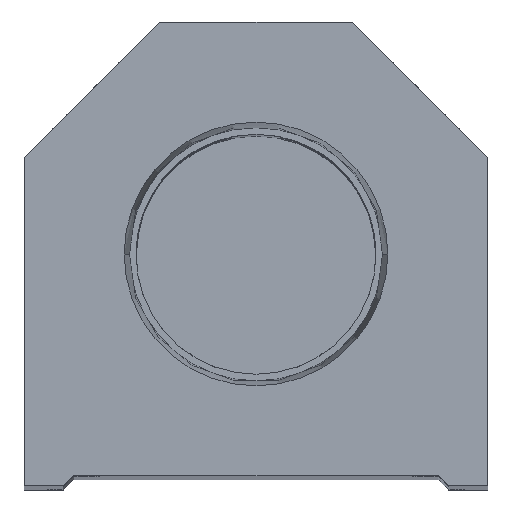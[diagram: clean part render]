
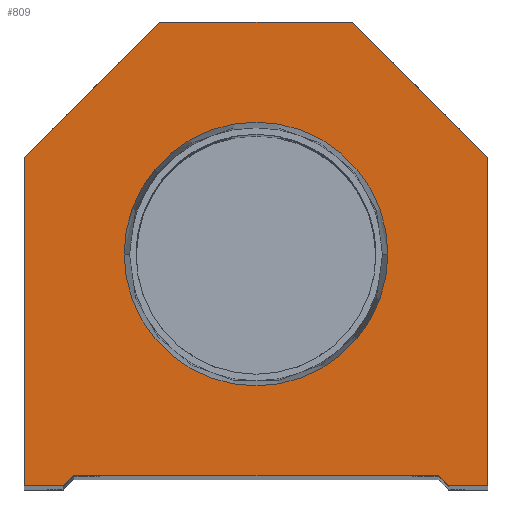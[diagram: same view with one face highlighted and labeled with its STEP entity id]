
A CAD part, top view. The second image highlights one B-rep face of the part: STEP entity #809.
In plain terms, the highlighted planar face has unit normal (0, 0, 1).
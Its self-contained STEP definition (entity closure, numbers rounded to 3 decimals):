
#106 = DIRECTION ( 'NONE',  ( -0.707, 0.707, 0. ) ) ;
#278 = DIRECTION ( 'NONE',  ( 1., 0., 0. ) ) ;
#294 = DIRECTION ( 'NONE',  ( 0., 0., 1. ) ) ;
#446 = CARTESIAN_POINT ( 'NONE',  ( 22.25, 31.5, 0. ) ) ;
#483 = CARTESIAN_POINT ( 'NONE',  ( -9.25, 44.5, 0. ) ) ;
#522 = DIRECTION ( 'NONE',  ( 1., 0., 0. ) ) ;
#809 = ADVANCED_FACE ( 'NONE', ( #11690, #15241 ), #22225, .T. ) ;
#1008 = VECTOR ( 'NONE', #3517, 1000. ) ;
#1066 = CARTESIAN_POINT ( 'NONE',  ( 9.25, 44.5, 0. ) ) ;
#1133 = CARTESIAN_POINT ( 'NONE',  ( 22.25, 0., 0. ) ) ;
#1269 = DIRECTION ( 'NONE',  ( 0.707, -0.707, 0. ) ) ;
#1543 = EDGE_CURVE ( 'NONE', #21576, #10332, #15882, .T. ) ;
#1892 = CARTESIAN_POINT ( 'NONE',  ( 0., 22.25, 0. ) ) ;
#2183 = AXIS2_PLACEMENT_3D ( 'NONE', #1892, #12311, #278 ) ;
#2688 = ORIENTED_EDGE ( 'NONE', *, *, #18606, .T. ) ;
#2989 = LINE ( 'NONE', #20747, #14627 ) ;
#3051 = CARTESIAN_POINT ( 'NONE',  ( 9.25, 44.5, 0. ) ) ;
#3106 = DIRECTION ( 'NONE',  ( 1., 0., 0. ) ) ;
#3517 = DIRECTION ( 'NONE',  ( 1., 0., 0. ) ) ;
#3863 = CARTESIAN_POINT ( 'NONE',  ( -17.5, 0., 0. ) ) ;
#3910 = DIRECTION ( 'NONE',  ( 0., 1., 0. ) ) ;
#4117 = VERTEX_POINT ( 'NONE', #22165 ) ;
#4138 = EDGE_CURVE ( 'NONE', #17224, #11182, #6272, .T. ) ;
#4257 = LINE ( 'NONE', #11685, #17042 ) ;
#4439 = DIRECTION ( 'NONE',  ( 0.707, 0.707, 0. ) ) ;
#4570 = VECTOR ( 'NONE', #19037, 1000. ) ;
#4657 = CARTESIAN_POINT ( 'NONE',  ( -9.25, 9.25, 0. ) ) ;
#4676 = VECTOR ( 'NONE', #4796, 1000. ) ;
#4796 = DIRECTION ( 'NONE',  ( 0., -1., 0. ) ) ;
#4834 = CARTESIAN_POINT ( 'NONE',  ( 0., 0., 0. ) ) ;
#5049 = CARTESIAN_POINT ( 'NONE',  ( -22.25, 31.5, 0. ) ) ;
#5116 = ORIENTED_EDGE ( 'NONE', *, *, #4138, .T. ) ;
#5143 = CARTESIAN_POINT ( 'NONE',  ( -12.647, 22.25, 0. ) ) ;
#5166 = AXIS2_PLACEMENT_3D ( 'NONE', #15993, #294, #522 ) ;
#5387 = CARTESIAN_POINT ( 'NONE',  ( 22.25, 0., 0. ) ) ;
#5607 = LINE ( 'NONE', #446, #20832 ) ;
#5862 = EDGE_LOOP ( 'NONE', ( #17128, #13416, #13168, #15789, #12606, #8603, #12345, #5116, #13870, #2688 ) ) ;
#6272 = LINE ( 'NONE', #3051, #22276 ) ;
#6523 = LINE ( 'NONE', #10044, #14347 ) ;
#6539 = VECTOR ( 'NONE', #4439, 1000. ) ;
#6622 = LINE ( 'NONE', #4657, #6539 ) ;
#6899 = LINE ( 'NONE', #5049, #4570 ) ;
#7596 = AXIS2_PLACEMENT_3D ( 'NONE', #4834, #11812, #3106 ) ;
#7928 = CARTESIAN_POINT ( 'NONE',  ( -17.5, 1., 0. ) ) ;
#8546 = EDGE_CURVE ( 'NONE', #10332, #9622, #6622, .T. ) ;
#8603 = ORIENTED_EDGE ( 'NONE', *, *, #16302, .T. ) ;
#9622 = VERTEX_POINT ( 'NONE', #7928 ) ;
#10044 = CARTESIAN_POINT ( 'NONE',  ( 17.5, 0., 0. ) ) ;
#10332 = VERTEX_POINT ( 'NONE', #12167 ) ;
#10655 = CIRCLE ( 'NONE', #5166, 12.647 ) ;
#11182 = VERTEX_POINT ( 'NONE', #483 ) ;
#11659 = CARTESIAN_POINT ( 'NONE',  ( -22.25, 0., 0. ) ) ;
#11685 = CARTESIAN_POINT ( 'NONE',  ( -17.5, 1., 0. ) ) ;
#11690 = FACE_BOUND ( 'NONE', #19361, .T. ) ;
#11812 = DIRECTION ( 'NONE',  ( 0., 0., 1. ) ) ;
#12167 = CARTESIAN_POINT ( 'NONE',  ( -18.5, 0., 0. ) ) ;
#12173 = VERTEX_POINT ( 'NONE', #1133 ) ;
#12192 = EDGE_CURVE ( 'NONE', #13000, #12173, #6523, .T. ) ;
#12311 = DIRECTION ( 'NONE',  ( 0., 0., 1. ) ) ;
#12345 = ORIENTED_EDGE ( 'NONE', *, *, #20028, .T. ) ;
#12606 = ORIENTED_EDGE ( 'NONE', *, *, #12192, .T. ) ;
#13000 = VERTEX_POINT ( 'NONE', #20069 ) ;
#13142 = CIRCLE ( 'NONE', #2183, 12.647 ) ;
#13168 = ORIENTED_EDGE ( 'NONE', *, *, #16091, .T. ) ;
#13416 = ORIENTED_EDGE ( 'NONE', *, *, #8546, .T. ) ;
#13870 = ORIENTED_EDGE ( 'NONE', *, *, #15477, .T. ) ;
#14347 = VECTOR ( 'NONE', #19017, 1000. ) ;
#14627 = VECTOR ( 'NONE', #1269, 1000. ) ;
#14839 = DIRECTION ( 'NONE',  ( -1., 0., 0. ) ) ;
#15241 = FACE_OUTER_BOUND ( 'NONE', #5862, .T. ) ;
#15322 = LINE ( 'NONE', #11659, #4676 ) ;
#15477 = EDGE_CURVE ( 'NONE', #11182, #18752, #6899, .T. ) ;
#15789 = ORIENTED_EDGE ( 'NONE', *, *, #21518, .T. ) ;
#15882 = LINE ( 'NONE', #3863, #1008 ) ;
#15993 = CARTESIAN_POINT ( 'NONE',  ( 0., 22.25, 0. ) ) ;
#16044 = LINE ( 'NONE', #5387, #21070 ) ;
#16083 = VERTEX_POINT ( 'NONE', #16746 ) ;
#16091 = EDGE_CURVE ( 'NONE', #9622, #19553, #4257, .T. ) ;
#16302 = EDGE_CURVE ( 'NONE', #12173, #16083, #16044, .T. ) ;
#16746 = CARTESIAN_POINT ( 'NONE',  ( 22.25, 31.5, 0. ) ) ;
#16873 = CARTESIAN_POINT ( 'NONE',  ( 17.5, 1., 0. ) ) ;
#17042 = VECTOR ( 'NONE', #22004, 1000. ) ;
#17128 = ORIENTED_EDGE ( 'NONE', *, *, #1543, .T. ) ;
#17224 = VERTEX_POINT ( 'NONE', #1066 ) ;
#17980 = CARTESIAN_POINT ( 'NONE',  ( -22.25, 31.5, 0. ) ) ;
#18571 = ORIENTED_EDGE ( 'NONE', *, *, #22142, .F. ) ;
#18606 = EDGE_CURVE ( 'NONE', #18752, #21576, #15322, .T. ) ;
#18681 = VERTEX_POINT ( 'NONE', #5143 ) ;
#18752 = VERTEX_POINT ( 'NONE', #17980 ) ;
#19017 = DIRECTION ( 'NONE',  ( 1., 0., 0. ) ) ;
#19037 = DIRECTION ( 'NONE',  ( -0.707, -0.707, 0. ) ) ;
#19361 = EDGE_LOOP ( 'NONE', ( #18571, #20648 ) ) ;
#19553 = VERTEX_POINT ( 'NONE', #16873 ) ;
#19830 = CARTESIAN_POINT ( 'NONE',  ( -22.25, 0., 0. ) ) ;
#20028 = EDGE_CURVE ( 'NONE', #16083, #17224, #5607, .T. ) ;
#20069 = CARTESIAN_POINT ( 'NONE',  ( 18.5, 0., 0. ) ) ;
#20648 = ORIENTED_EDGE ( 'NONE', *, *, #21171, .F. ) ;
#20747 = CARTESIAN_POINT ( 'NONE',  ( 9.25, 9.25, 0. ) ) ;
#20832 = VECTOR ( 'NONE', #106, 1000. ) ;
#21070 = VECTOR ( 'NONE', #3910, 1000. ) ;
#21171 = EDGE_CURVE ( 'NONE', #18681, #4117, #13142, .T. ) ;
#21518 = EDGE_CURVE ( 'NONE', #19553, #13000, #2989, .T. ) ;
#21576 = VERTEX_POINT ( 'NONE', #19830 ) ;
#22004 = DIRECTION ( 'NONE',  ( 1., 0., 0. ) ) ;
#22142 = EDGE_CURVE ( 'NONE', #4117, #18681, #10655, .T. ) ;
#22165 = CARTESIAN_POINT ( 'NONE',  ( 12.647, 22.25, 0. ) ) ;
#22225 = PLANE ( 'NONE',  #7596 ) ;
#22276 = VECTOR ( 'NONE', #14839, 1000. ) ;
